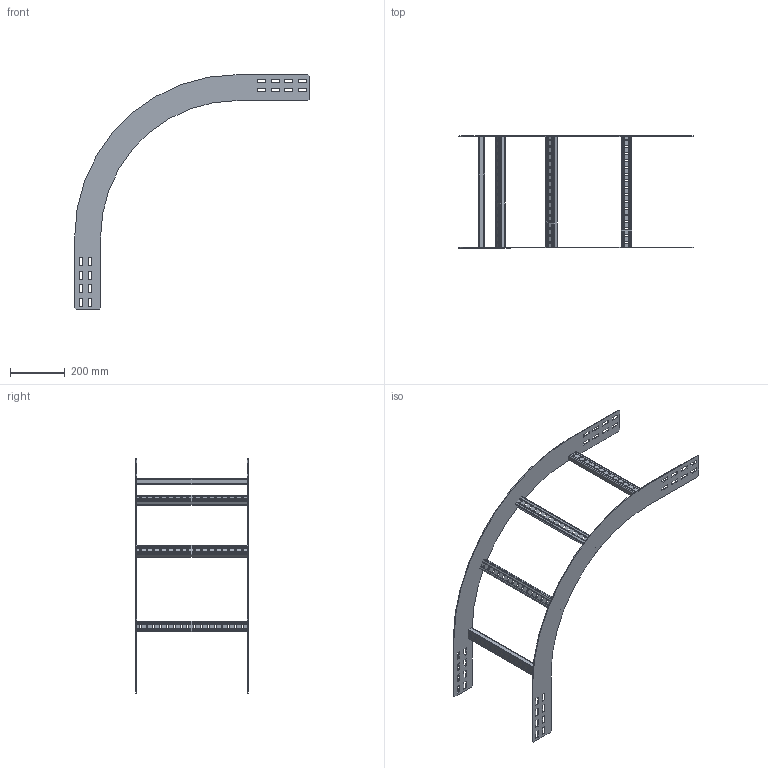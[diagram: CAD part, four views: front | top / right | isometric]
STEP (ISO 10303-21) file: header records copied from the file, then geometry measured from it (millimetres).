
FILE_DESCRIPTION(('Creo Elements/Direct Modeling STEP Export'),'2;1');
FILE_NAME('WPOR10-40-90-45.stp','2016-06-02T 9:29:56',(''),(''),'PTC Creo Elements/Direct Modeling STEP processor for AP214 (Solid Model)','PTC Creo Elements/Direct Modeling 19.0C 15-Aug-2015 (C) Parametric Technology GmbH','');
FILE_SCHEMA(('AUTOMOTIVE_DESIGN { 1 0 10303 214 1 1 1 1 }'));
Length unit declared in the file: millimetre
Products named in the file (3): WPIBG100_450.1; WPHBS40; WPOR10-40-90-45
Assembly tree (6 placements, depth 2):
  WPOR10-40-90-45
    WPHBS40  x4
    WPIBG100_450.1  x2
Bounding box: 860 x 411 x 860 mm (x, y, z)
Volume: 995335.6 mm3; surface area: 856893.5 mm2
Topology: 6 solids, 6 shells, 572 faces, 1680 edges, 1120 vertices
Faces by surface type: plane 368, cylinder 204
Entity records: 6252 total; most frequent: CARTESIAN_POINT 1078, ORIENTED_EDGE 1068, DIRECTION 1014, EDGE_CURVE 534, VECTOR 430, LINE 430, VERTEX_POINT 356, AXIS2_PLACEMENT_3D 292
